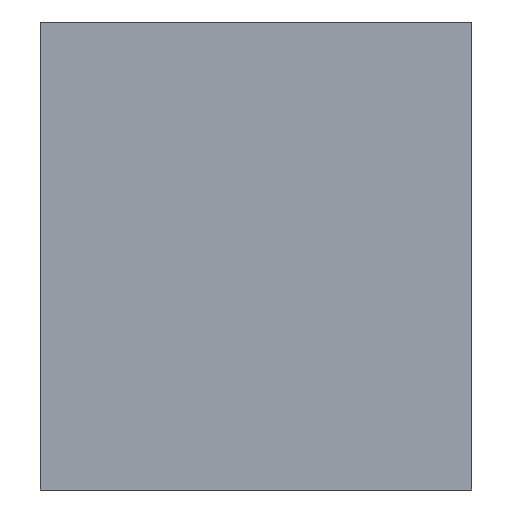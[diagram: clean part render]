
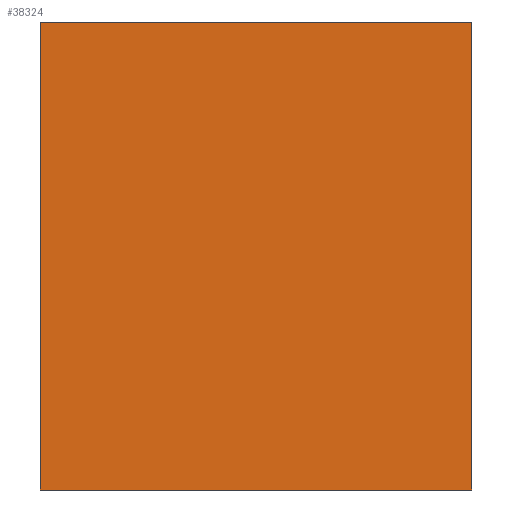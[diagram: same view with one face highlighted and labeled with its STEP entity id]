
A CAD part, left-side view. The second image highlights one B-rep face of the part: STEP entity #38324.
In plain terms, the highlighted planar face has unit normal (-1, 0, 0).
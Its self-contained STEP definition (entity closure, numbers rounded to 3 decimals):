
#3386 = VECTOR ( 'NONE', #51793, 1000. ) ;
#4068 = LINE ( 'NONE', #10135, #3386 ) ;
#5942 = EDGE_CURVE ( 'NONE', #58209, #50244, #11077, .T. ) ;
#6364 = EDGE_CURVE ( 'NONE', #56154, #50244, #4068, .T. ) ;
#6561 = EDGE_LOOP ( 'NONE', ( #22023, #21387, #20726, #20166 ) ) ;
#6857 = CARTESIAN_POINT ( 'NONE',  ( 28., -20.75, 22.5 ) ) ;
#7044 = EDGE_CURVE ( 'NONE', #50135, #56154, #14284, .T. ) ;
#7662 = VECTOR ( 'NONE', #29462, 1000. ) ;
#7845 = EDGE_CURVE ( 'NONE', #50135, #58209, #52933, .T. ) ;
#10135 = CARTESIAN_POINT ( 'NONE',  ( 28., -20.75, -22.5 ) ) ;
#10971 = VECTOR ( 'NONE', #31505, 1000. ) ;
#11077 = LINE ( 'NONE', #59076, #10971 ) ;
#11157 = VECTOR ( 'NONE', #16633, 1000. ) ;
#14284 = LINE ( 'NONE', #44527, #11157 ) ;
#16633 = DIRECTION ( 'NONE',  ( 0., 0., -1. ) ) ;
#18833 = PLANE ( 'NONE',  #37469 ) ;
#19040 = DIRECTION ( 'NONE',  ( 1., 0., 0. ) ) ;
#20166 = ORIENTED_EDGE ( 'NONE', *, *, #7845, .T. ) ;
#20726 = ORIENTED_EDGE ( 'NONE', *, *, #7044, .F. ) ;
#21387 = ORIENTED_EDGE ( 'NONE', *, *, #6364, .F. ) ;
#22023 = ORIENTED_EDGE ( 'NONE', *, *, #5942, .T. ) ;
#24261 = CARTESIAN_POINT ( 'NONE',  ( 28., -20.75, -22.5 ) ) ;
#25224 = CARTESIAN_POINT ( 'NONE',  ( 28., 20.75, -22.5 ) ) ;
#29462 = DIRECTION ( 'NONE',  ( 0., 1., 0. ) ) ;
#31505 = DIRECTION ( 'NONE',  ( 0., 0., -1. ) ) ;
#34236 = CARTESIAN_POINT ( 'NONE',  ( 28., -20.75, 22.5 ) ) ;
#37469 = AXIS2_PLACEMENT_3D ( 'NONE', #46963, #19040, #51515 ) ;
#37491 = FACE_OUTER_BOUND ( 'NONE', #6561, .T. ) ;
#38324 = ADVANCED_FACE ( 'NONE', ( #37491 ), #18833, .F. ) ;
#44527 = CARTESIAN_POINT ( 'NONE',  ( 28., -20.75, -22.5 ) ) ;
#45540 = CARTESIAN_POINT ( 'NONE',  ( 28., 20.75, 22.5 ) ) ;
#46963 = CARTESIAN_POINT ( 'NONE',  ( 28., -20.75, -22.5 ) ) ;
#50135 = VERTEX_POINT ( 'NONE', #6857 ) ;
#50244 = VERTEX_POINT ( 'NONE', #25224 ) ;
#51515 = DIRECTION ( 'NONE',  ( 0., 0., -1. ) ) ;
#51793 = DIRECTION ( 'NONE',  ( 0., 1., 0. ) ) ;
#52933 = LINE ( 'NONE', #34236, #7662 ) ;
#56154 = VERTEX_POINT ( 'NONE', #24261 ) ;
#58209 = VERTEX_POINT ( 'NONE', #45540 ) ;
#59076 = CARTESIAN_POINT ( 'NONE',  ( 28., 20.75, -22.5 ) ) ;
